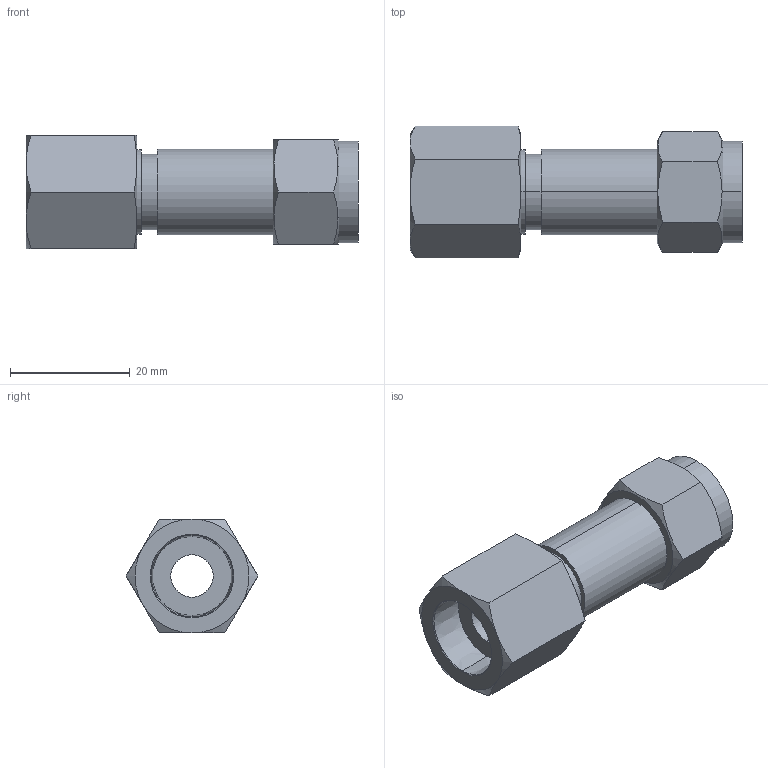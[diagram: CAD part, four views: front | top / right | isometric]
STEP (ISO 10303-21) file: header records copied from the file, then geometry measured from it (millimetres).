
FILE_DESCRIPTION (( 'STEP AP203' ), '1' );
FILE_NAME ('DSS06-04 SS.STEP', '2009-09-08T09:15:35', ( ' ' ), ( '' ), 'SwSTEP 2.0', 'SolidWorks 2008', '' );
FILE_SCHEMA (( 'CONFIG_CONTROL_DESIGN' ));
Length unit declared in the file: millimetre
Products named in the file (1): DSS06-04 SS
Bounding box: 55.5 x 22 x 19.05 mm (x, y, z)
Volume: 9645.6 mm3; surface area: 5307.5 mm2
Topology: 1 solids, 1 shells, 52 faces, 116 edges, 72 vertices
Faces by surface type: cone 20, plane 20, cylinder 12
Entity records: 1709 total; most frequent: CARTESIAN_POINT 513, ORIENTED_EDGE 232, DIRECTION 226, EDGE_CURVE 116, AXIS2_PLACEMENT_3D 97, VERTEX_POINT 72, EDGE_LOOP 60, ADVANCED_FACE 52
